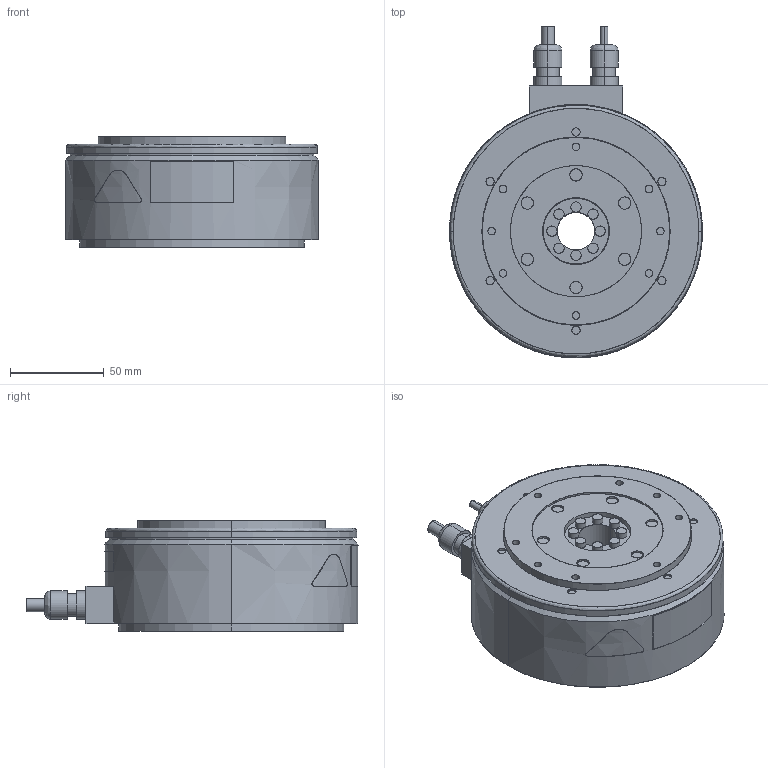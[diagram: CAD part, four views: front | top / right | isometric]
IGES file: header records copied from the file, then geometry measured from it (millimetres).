
Start section: SolidWorks IGES file using analytic representation for surfaces
Bounding box: 135 x 177.1 x 59 mm (x, y, z)
Surface area: 64638 mm2 (no closed solid volume)
Topology: 0 solids, 0 shells, 228 faces, 5485 edges, 5485 vertices
Faces by surface type: revolution 138, bspline 90
